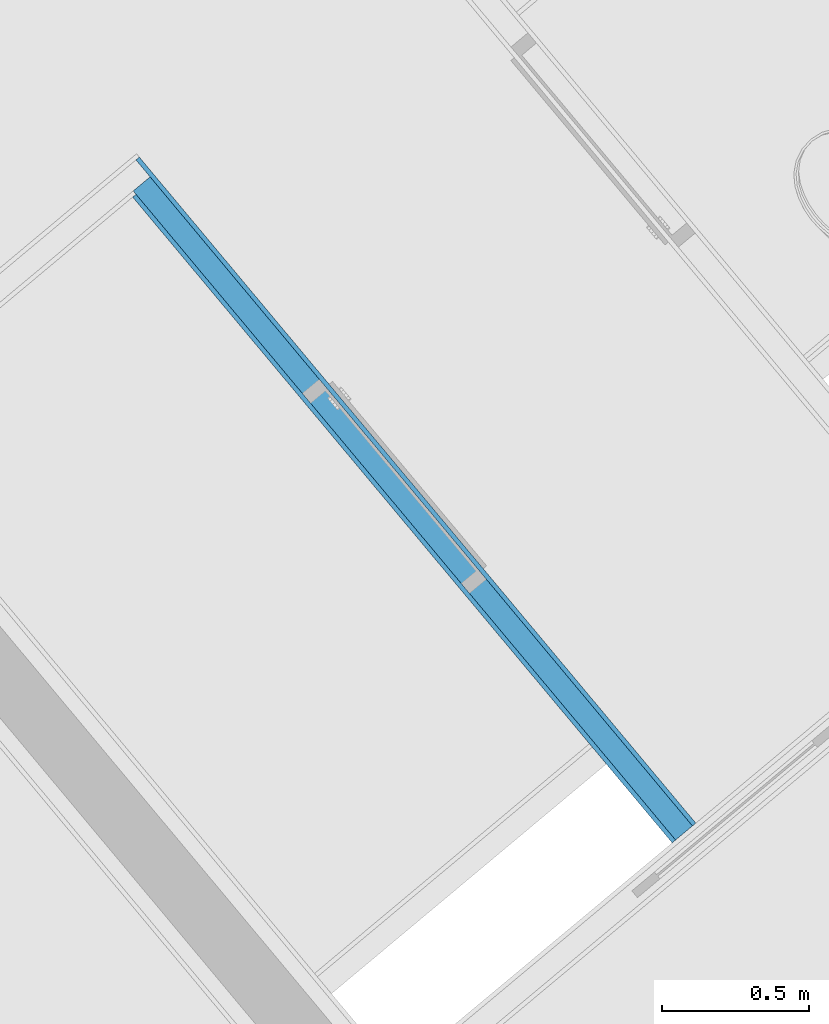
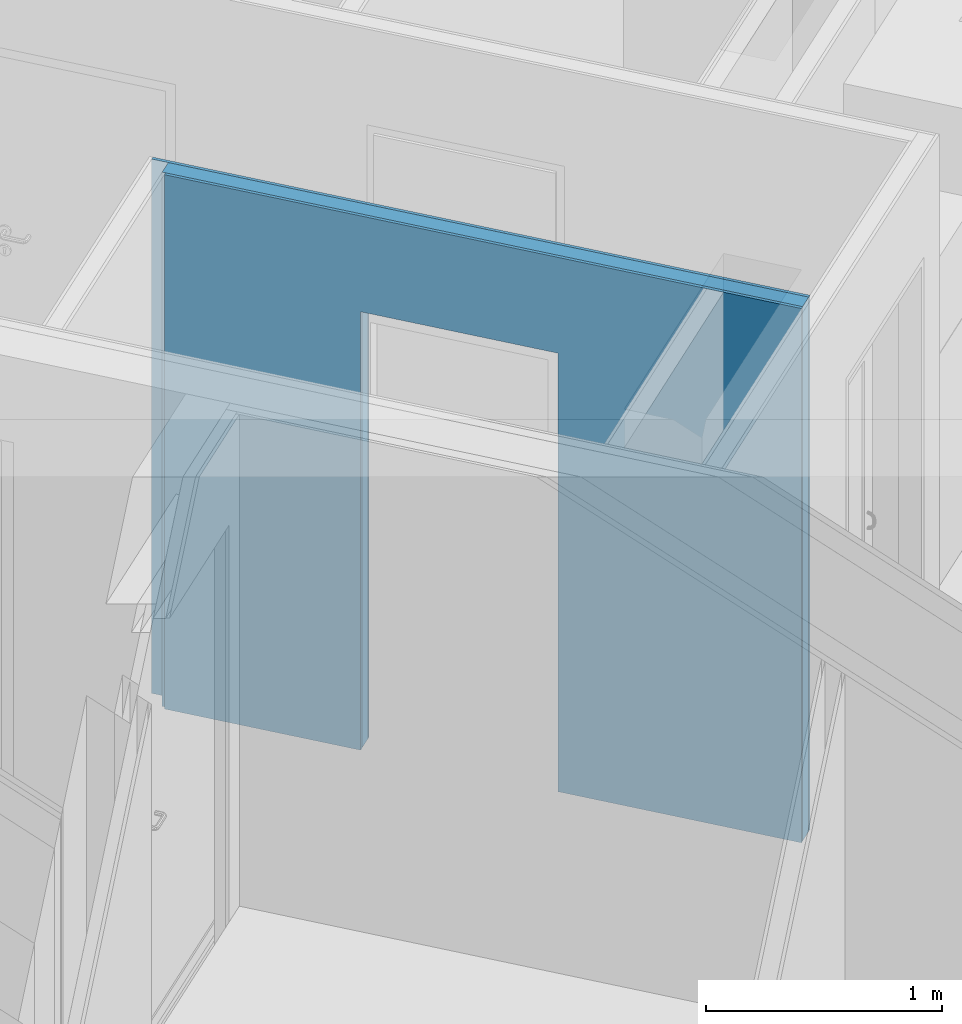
# One storey, part 5 of 75: 3 building element parts, 1 opening, 1 element without a shape of its own.
"""IFC4 building model written with IfcOpenShell, lengths in metres."""

from ifc_helpers import new_model, entity, si_unit, converted_unit, derived_unit, direction, frame, origin_with_axes, place, context, subcontext, project, spatial, polygons, material, type_object, element, aggregate, save


model = new_model("IFC4")

# Units and contexts
model_context = context("Model", 3, precision=1e-05, world=origin_with_axes(), true_north=direction((0.0, 1.0)))
body_context = subcontext(model_context, "Body", "Model", "MODEL_VIEW")
ifc_project = project(units=[si_unit("LENGTHUNIT", "METRE"), si_unit("AREAUNIT", "SQUARE_METRE"), si_unit("VOLUMEUNIT", "CUBIC_METRE"), converted_unit("PLANEANGLEUNIT", "DEGREE", entity("IfcPlaneAngleMeasure", 0.0174532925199), si_unit("PLANEANGLEUNIT", "RADIAN"), dimensions=[0, 0, 0, 0, 0, 0, 0]), converted_unit("TIMEUNIT", "Year", entity("IfcTimeMeasure", 31556926.0), si_unit("TIMEUNIT", "SECOND"), dimensions=[0, 0, 1, 0, 0, 0, 0]), si_unit("MASSUNIT", "GRAM", prefix="KILO"), si_unit("THERMODYNAMICTEMPERATUREUNIT", "DEGREE_CELSIUS"), si_unit("LUMINOUSINTENSITYUNIT", "LUMEN"), si_unit("ENERGYUNIT", "JOULE", prefix="MEGA"), derived_unit("THERMALCONDUCTANCEUNIT", [(si_unit("POWERUNIT", "WATT"), 1), (si_unit("LENGTHUNIT", "METRE"), -1), (si_unit("THERMODYNAMICTEMPERATUREUNIT", "KELVIN"), -1)]), derived_unit("SPECIFICHEATCAPACITYUNIT", [(si_unit("ENERGYUNIT", "JOULE"), 1), (si_unit("MASSUNIT", "GRAM", prefix="KILO"), -1), (si_unit("THERMODYNAMICTEMPERATUREUNIT", "KELVIN"), -1)]), derived_unit("MASSDENSITYUNIT", [(si_unit("MASSUNIT", "GRAM", prefix="KILO"), 1), (si_unit("VOLUMEUNIT", "CUBIC_METRE"), -1)])], contexts=[model_context])

# Site, building, storey
site_placement = place(None, frame((-0.00153261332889, -0.00661245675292, 0.0), z_axis=(0.0, 0.0, 1.0), x_axis=(1.0, 0.0, 0.0)))
site = spatial("IfcSite", under=ifc_project, at=site_placement, Name="Gelände", CompositionType="ELEMENT")
building_placement = place(site_placement, origin_with_axes())
building = spatial("IfcBuilding", under=site, at=building_placement, Name="Gebäude", CompositionType="ELEMENT")
storey_placement = place(building_placement, frame((0.0, 0.0, -0.22), z_axis=(0.0, 0.0, 1.0), x_axis=(1.0, 0.0, 0.0)))
storey = spatial("IfcBuildingStorey", under=building, at=storey_placement, Name="EG", CompositionType="ELEMENT", Elevation=-0.22)

# Wall, opening, building element parts
wall_type = type_object("IfcWallType", Name="IW LB 01 Leichtbautrennwand einfach 10,5 cm 105", PredefinedType="NOTDEFINED")
wall_placement = place(storey_placement, frame((3.83651471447, 23.8286993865, 0.0), z_axis=(0.0, 0.0, 1.0), x_axis=(0.641209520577, -0.767365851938, 0.0)))
wall = element("IfcWall", 1, at=wall_placement, inside=storey, type_object=wall_type, Name="Wand-012", PredefinedType="NOTDEFINED")
opening_placement = place(wall_placement, frame((1.32968654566, 0.0, 0.22), z_axis=(0.0, 0.0, 1.0), x_axis=(1.0, 0.0, 0.0)))
element("IfcOpeningElement", 2, at=opening_placement, cuts=wall, Name="Tür-015", context=body_context, identifier="Reference", shape_type="Tessellation", body=[
    polygons([(-0.445, -1.46532995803, 2.045), (-0.445, -1.46532995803, -0.22), (0.445, -1.46532995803, -0.22), (0.445, -1.46532995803, 2.045), (-0.445, 1.57032995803, 2.045), (-0.445, 1.57032995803, -0.22), (0.445, 1.57032995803, -0.22), (0.445, 1.57032995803, 2.045)], [[[1, 2, 3, 4]], [[5, 6, 2, 1]], [[6, 7, 3, 2]], [[7, 8, 4, 3]], [[8, 5, 1, 4]], [[7, 6, 5, 8]]], closed=True),
])
ifc_material_1 = material(Name="Gipskarton")
building_element_part_1_placement = place(wall_placement, origin_with_axes())
building_element_part_1 = element("IfcBuildingElementPart", 3, at=building_element_part_1_placement, material=ifc_material_1, Name="Gipskarton", PredefinedType="NOTDEFINED", context=body_context, shape_type="Tessellation", body=[
    polygons([(0.884686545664, 0.105, 2.265), (0.884686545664, 0.105, 0.22), (0.884686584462, 0.105, 0.0), (-0.0899999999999, 0.105, 0.0), (-0.0899999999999, 0.105, 2.76), (2.87109056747, 0.105, 2.76), (2.87109056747, 0.105, 0.0), (1.77468654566, 0.105, 0.0), (1.77468654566, 0.105, 0.22), (1.77468654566, 0.105, 2.265), (0.884686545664, 0.09, 2.265), (0.884686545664, 0.09, 0.22), (0.884686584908, 0.09, 0.0), (-0.0899999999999, 0.09, 0.0), (-0.0899999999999, 0.09, 2.76), (2.8710811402, 0.09, 2.76), (2.8710811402, 0.09, 0.0), (1.77468654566, 0.09, 0.0), (1.77468654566, 0.09, 0.22), (1.77468654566, 0.09, 2.265)], [[[1, 2, 3, 4, 5, 6, 7, 8, 9, 10]], [[2, 1, 11, 12]], [[2, 12, 13, 3]], [[13, 14, 4, 3]], [[5, 4, 14, 15]], [[5, 15, 16, 6]], [[16, 17, 7, 6]], [[8, 7, 17, 18]], [[19, 9, 8, 18]], [[10, 9, 19, 20]], [[1, 10, 20, 11]], [[20, 19, 18, 17, 16, 15, 14, 13, 12, 11]]], closed=True),
])
ifc_material_2 = material(Name="Mineralwolle weich")
building_element_part_2_placement = place(wall_placement, origin_with_axes())
building_element_part_2 = element("IfcBuildingElementPart", 4, at=building_element_part_2_placement, material=ifc_material_2, Name="Mineralwolle weich", PredefinedType="NOTDEFINED", context=body_context, shape_type="Tessellation", body=[
    polygons([(0.884686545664, 0.09, 2.265), (0.884686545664, 0.09, 0.22), (0.884686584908, 0.09, 0.0), (-0.0149999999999, 0.09, 0.0), (-0.0149999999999, 0.09, 2.76), (2.8710811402, 0.09, 2.76), (2.8710811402, 0.09, 0.0), (1.77468654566, 0.09, 0.0), (1.77468654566, 0.09, 0.22), (1.77468654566, 0.09, 2.265), (0.884686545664, 0.015, 2.265), (0.884686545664, 0.015, 0.22), (0.88468658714, 0.015, 0.0), (-0.015, 0.015, 0.0), (-0.015, 0.015, 2.76), (2.87103400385, 0.015, 2.76), (2.87103400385, 0.015, 0.0), (1.77468654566, 0.015, 0.0), (1.77468654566, 0.015, 0.22), (1.77468654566, 0.015, 2.265)], [[[1, 2, 3, 4, 5, 6, 7, 8, 9, 10]], [[2, 1, 11, 12]], [[2, 12, 13, 3]], [[13, 14, 4, 3]], [[5, 4, 14, 15]], [[5, 15, 16, 6]], [[16, 17, 7, 6]], [[8, 7, 17, 18]], [[19, 9, 8, 18]], [[10, 9, 19, 20]], [[1, 10, 20, 11]], [[20, 19, 18, 17, 16, 15, 14, 13, 12, 11]]], closed=True),
])
building_element_part_3_placement = place(wall_placement, origin_with_axes())
building_element_part_3 = element("IfcBuildingElementPart", 5, at=building_element_part_3_placement, material=ifc_material_1, Name="Gipskarton", PredefinedType="NOTDEFINED", context=body_context, shape_type="Tessellation", body=[
    polygons([(0.884686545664, 0.015, 2.265), (0.884686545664, 0.015, 0.22), (0.88468658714, 0.015, 0.0), (0.0, 0.015, 0.0), (0.0, 0.015, 2.76), (2.87103400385, 0.015, 2.76), (2.87103400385, 0.015, 0.0), (1.77468654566, 0.015, 0.0), (1.77468654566, 0.015, 0.22), (1.77468654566, 0.015, 2.265), (0.884686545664, -9.05944830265e-09, 2.265), (0.884686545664, -2.05159622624e-09, 0.22), (0.884686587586, -2.05159622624e-09, 0.0), (0.0, 0.0, 0.0), (0.0, 0.0, 2.76), (2.5204506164, 0.0, 2.76), (2.87102457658, 0.0, 2.76), (2.87102457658, 0.0, 0.0), (1.77468654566, -9.05944830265e-09, 0.0), (1.77468654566, -9.05945185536e-09, 0.22), (1.77468654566, -9.05944830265e-09, 2.265)], [[[1, 2, 3, 4, 5, 6, 7, 8, 9, 10]], [[2, 1, 11, 12]], [[2, 12, 13, 3]], [[13, 14, 4, 3]], [[5, 4, 14, 15]], [[15, 16, 17, 6, 5]], [[17, 18, 7, 6]], [[8, 7, 18, 19]], [[20, 9, 8, 19]], [[10, 9, 20, 21]], [[1, 10, 21, 11]], [[21, 20, 19, 18, 17, 16, 15, 14, 13, 12, 11]]], closed=True),
])
aggregate(wall, [building_element_part_1, building_element_part_2, building_element_part_3])

save(model, "model.ifc")
